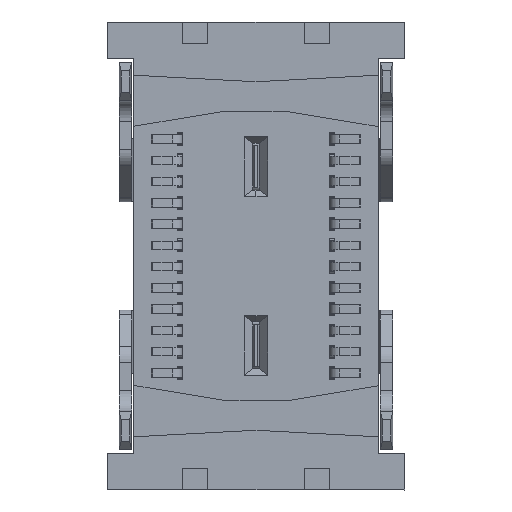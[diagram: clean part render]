
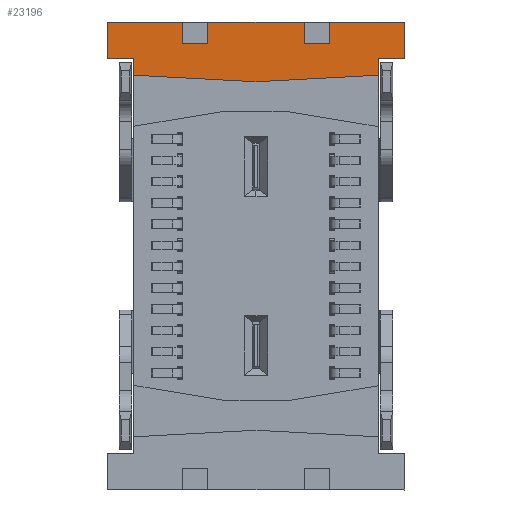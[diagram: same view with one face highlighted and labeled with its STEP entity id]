
A CAD part, left-side view. The second image highlights one B-rep face of the part: STEP entity #23196.
In plain terms, the highlighted planar face has unit normal (-1, 0, 0).
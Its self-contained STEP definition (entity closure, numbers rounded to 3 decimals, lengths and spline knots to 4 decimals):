
#846=DIRECTION('',(0.,-1.,0.));
#847=VECTOR('',#846,2.2699);
#848=CARTESIAN_POINT('',(-12.8729,0.8597,13.125));
#849=LINE('',#848,#847);
#850=DIRECTION('',(0.,0.,-1.));
#851=VECTOR('',#850,0.5);
#852=CARTESIAN_POINT('',(-12.8729,-1.4101,13.125));
#853=LINE('',#852,#851);
#854=DIRECTION('',(0.,-1.,0.));
#855=VECTOR('',#854,0.6);
#856=CARTESIAN_POINT('',(-12.8729,-1.4101,12.625));
#857=LINE('',#856,#855);
#858=DIRECTION('',(0.,-1.,0.));
#859=VECTOR('',#858,1.7651);
#860=CARTESIAN_POINT('',(-12.8729,-2.0101,13.125));
#861=LINE('',#860,#859);
#862=DIRECTION('',(0.,0.,-1.));
#863=VECTOR('',#862,0.85);
#864=CARTESIAN_POINT('',(-12.8729,-3.7752,13.125));
#865=LINE('',#864,#863);
#866=DIRECTION('',(0.,0.,-1.));
#867=VECTOR('',#866,0.4);
#868=CARTESIAN_POINT('',(-12.8729,-3.1452,12.275));
#869=LINE('',#868,#867);
#870=DIRECTION('',(0.,0.999,-0.054));
#871=VECTOR('',#870,2.8741);
#872=CARTESIAN_POINT('',(-12.8729,-3.1452,11.875));
#873=LINE('',#872,#871);
#874=DIRECTION('',(0.,0.999,0.054));
#875=VECTOR('',#874,2.8741);
#876=CARTESIAN_POINT('',(-12.8729,-0.2752,
11.721));
#877=LINE('',#876,#875);
#878=DIRECTION('',(0.,0.,1.));
#879=VECTOR('',#878,0.4);
#880=CARTESIAN_POINT('',(-12.8729,2.5948,11.875));
#881=LINE('',#880,#879);
#882=DIRECTION('',(0.,1.,0.));
#883=VECTOR('',#882,0.63);
#884=CARTESIAN_POINT('',(-12.8729,2.5948,12.275));
#885=LINE('',#884,#883);
#886=DIRECTION('',(0.,0.,1.));
#887=VECTOR('',#886,0.85);
#888=CARTESIAN_POINT('',(-12.8729,3.2248,12.275));
#889=LINE('',#888,#887);
#890=DIRECTION('',(0.,0.,-1.));
#891=VECTOR('',#890,0.5);
#892=CARTESIAN_POINT('',(-12.8729,1.4597,13.125));
#893=LINE('',#892,#891);
#894=DIRECTION('',(0.,-1.,0.));
#895=VECTOR('',#894,0.6);
#896=CARTESIAN_POINT('',(-12.8729,1.4597,12.625));
#897=LINE('',#896,#895);
#918=DIRECTION('',(0.,1.,0.));
#919=VECTOR('',#918,1.7651);
#920=CARTESIAN_POINT('',(-12.8729,1.4597,13.125));
#921=LINE('',#920,#919);
#11296=DIRECTION('',(0.,-1.,0.));
#11297=VECTOR('',#11296,0.63);
#11298=CARTESIAN_POINT('',(-12.8729,-3.1452,
12.275));
#11299=LINE('',#11298,#11297);
#12834=DIRECTION('',(0.,0.,-1.));
#12835=VECTOR('',#12834,0.5);
#12836=CARTESIAN_POINT('',(-12.8729,-2.0101,
13.125));
#12837=LINE('',#12836,#12835);
#12862=DIRECTION('',(0.,0.,-1.));
#12863=VECTOR('',#12862,0.5);
#12864=CARTESIAN_POINT('',(-12.8729,0.8597,
13.125));
#12865=LINE('',#12864,#12863);
#18077=CARTESIAN_POINT('',(-12.8729,-0.2752,
11.721));
#18078=VERTEX_POINT('',#18077);
#18079=CARTESIAN_POINT('',(-12.8729,2.5948,
11.875));
#18080=VERTEX_POINT('',#18079);
#18081=CARTESIAN_POINT('',(-12.8729,-3.1452,
11.875));
#18082=VERTEX_POINT('',#18081);
#18083=CARTESIAN_POINT('',(-12.8729,0.8597,
13.125));
#18084=CARTESIAN_POINT('',(-12.8729,-1.4101,
13.125));
#18085=VERTEX_POINT('',#18083);
#18086=VERTEX_POINT('',#18084);
#18087=CARTESIAN_POINT('',(-12.8729,-1.4101,
12.625));
#18088=VERTEX_POINT('',#18087);
#18089=CARTESIAN_POINT('',(-12.8729,-2.0101,
12.625));
#18090=VERTEX_POINT('',#18089);
#18091=CARTESIAN_POINT('',(-12.8729,-2.0101,
13.125));
#18092=VERTEX_POINT('',#18091);
#18093=CARTESIAN_POINT('',(-12.8729,-3.7752,
13.125));
#18094=VERTEX_POINT('',#18093);
#18095=CARTESIAN_POINT('',(-12.8729,-3.7752,
12.275));
#18096=VERTEX_POINT('',#18095);
#18097=CARTESIAN_POINT('',(-12.8729,-3.1452,
12.275));
#18098=VERTEX_POINT('',#18097);
#18099=CARTESIAN_POINT('',(-12.8729,2.5948,
12.275));
#18100=VERTEX_POINT('',#18099);
#18101=CARTESIAN_POINT('',(-12.8729,3.2248,
12.275));
#18102=VERTEX_POINT('',#18101);
#18103=CARTESIAN_POINT('',(-12.8729,3.2248,
13.125));
#18104=VERTEX_POINT('',#18103);
#18105=CARTESIAN_POINT('',(-12.8729,1.4597,
13.125));
#18106=VERTEX_POINT('',#18105);
#18107=CARTESIAN_POINT('',(-12.8729,1.4597,
12.625));
#18108=VERTEX_POINT('',#18107);
#18109=CARTESIAN_POINT('',(-12.8729,0.8597,
12.625));
#18110=VERTEX_POINT('',#18109);
#23157=CARTESIAN_POINT('',(-12.8729,2.5948,
11.875));
#23158=DIRECTION('',(-1.,0.,0.));
#23159=DIRECTION('',(0.,0.,1.));
#23160=AXIS2_PLACEMENT_3D('',#23157,#23158,#23159);
#23161=PLANE('',#23160);
#23163=ORIENTED_EDGE('',*,*,#23162,.T.);
#23165=ORIENTED_EDGE('',*,*,#23164,.T.);
#23167=ORIENTED_EDGE('',*,*,#23166,.T.);
#23169=ORIENTED_EDGE('',*,*,#23168,.F.);
#23171=ORIENTED_EDGE('',*,*,#23170,.T.);
#23173=ORIENTED_EDGE('',*,*,#23172,.T.);
#23175=ORIENTED_EDGE('',*,*,#23174,.F.);
#23177=ORIENTED_EDGE('',*,*,#23176,.T.);
#23178=ORIENTED_EDGE('',*,*,#23149,.T.);
#23179=ORIENTED_EDGE('',*,*,#23138,.T.);
#23181=ORIENTED_EDGE('',*,*,#23180,.T.);
#23183=ORIENTED_EDGE('',*,*,#23182,.T.);
#23185=ORIENTED_EDGE('',*,*,#23184,.T.);
#23187=ORIENTED_EDGE('',*,*,#23186,.F.);
#23189=ORIENTED_EDGE('',*,*,#23188,.T.);
#23191=ORIENTED_EDGE('',*,*,#23190,.T.);
#23193=ORIENTED_EDGE('',*,*,#23192,.F.);
#23194=EDGE_LOOP('',(#23163,#23165,#23167,#23169,#23171,#23173,#23175,#23177,
#23178,#23179,#23181,#23183,#23185,#23187,#23189,#23191,#23193));
#23195=FACE_OUTER_BOUND('',#23194,.F.);
#23138=EDGE_CURVE('',#18078,#18080,#877,.T.);
#23149=EDGE_CURVE('',#18082,#18078,#873,.T.);
#23162=EDGE_CURVE('',#18085,#18086,#849,.T.);
#23164=EDGE_CURVE('',#18086,#18088,#853,.T.);
#23166=EDGE_CURVE('',#18088,#18090,#857,.T.);
#23168=EDGE_CURVE('',#18092,#18090,#12837,.T.);
#23170=EDGE_CURVE('',#18092,#18094,#861,.T.);
#23172=EDGE_CURVE('',#18094,#18096,#865,.T.);
#23174=EDGE_CURVE('',#18098,#18096,#11299,.T.);
#23176=EDGE_CURVE('',#18098,#18082,#869,.T.);
#23180=EDGE_CURVE('',#18080,#18100,#881,.T.);
#23182=EDGE_CURVE('',#18100,#18102,#885,.T.);
#23184=EDGE_CURVE('',#18102,#18104,#889,.T.);
#23186=EDGE_CURVE('',#18106,#18104,#921,.T.);
#23188=EDGE_CURVE('',#18106,#18108,#893,.T.);
#23190=EDGE_CURVE('',#18108,#18110,#897,.T.);
#23192=EDGE_CURVE('',#18085,#18110,#12865,.T.);
#23196=ADVANCED_FACE('',(#23195),#23161,.T.);
